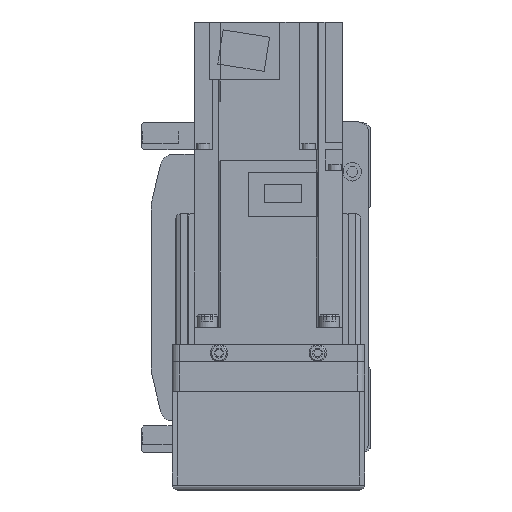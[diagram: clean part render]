
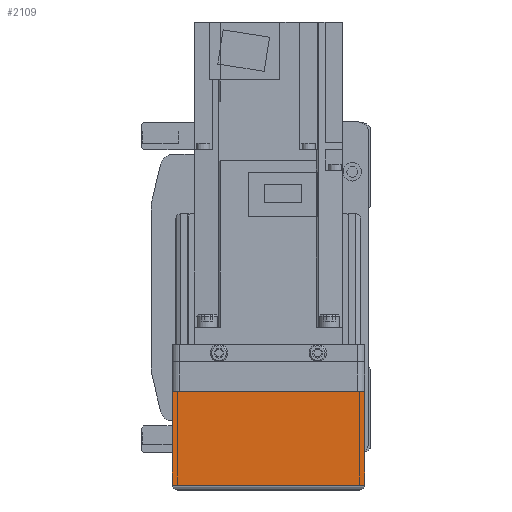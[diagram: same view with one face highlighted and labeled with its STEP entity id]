
A CAD part, left-side view. The second image highlights one B-rep face of the part: STEP entity #2109.
In plain terms, the highlighted planar face has unit normal (-1, 0, 0).
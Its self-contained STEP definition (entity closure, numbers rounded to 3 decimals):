
#2109 = ADVANCED_FACE( '', ( #4919 ), #4920, .F. );
#4919 = FACE_OUTER_BOUND( '', #8609, .T. );
#4920 = PLANE( '', #8610 );
#8609 = EDGE_LOOP( '', ( #14595, #14596, #14597, #14598 ) );
#8610 = AXIS2_PLACEMENT_3D( '', #14599, #14600, #14601 );
#14595 = ORIENTED_EDGE( '', *, *, #22684, .F. );
#14596 = ORIENTED_EDGE( '', *, *, #22685, .F. );
#14597 = ORIENTED_EDGE( '', *, *, #22686, .T. );
#14598 = ORIENTED_EDGE( '', *, *, #22687, .F. );
#14599 = CARTESIAN_POINT( '', ( -158., 36., 7. ) );
#14600 = DIRECTION( '', ( 1., 0., 0. ) );
#14601 = DIRECTION( '', ( 0., 0., -1. ) );
#22684 = EDGE_CURVE( '', #27823, #27824, #27825, .T. );
#22685 = EDGE_CURVE( '', #27826, #27823, #27827, .T. );
#22686 = EDGE_CURVE( '', #27826, #27828, #27829, .T. );
#22687 = EDGE_CURVE( '', #27824, #27828, #27830, .T. );
#27823 = VERTEX_POINT( '', #35523 );
#27824 = VERTEX_POINT( '', #35524 );
#27825 = LINE( '', #35525, #35526 );
#27826 = VERTEX_POINT( '', #35527 );
#27827 = LINE( '', #35528, #35529 );
#27828 = VERTEX_POINT( '', #35530 );
#27829 = LINE( '', #35531, #35532 );
#27830 = LINE( '', #35533, #35534 );
#35523 = CARTESIAN_POINT( '', ( -158., 39., -12.1 ) );
#35524 = CARTESIAN_POINT( '', ( -158., -39., -12.1 ) );
#35525 = CARTESIAN_POINT( '', ( -158., 50., -12.1 ) );
#35526 = VECTOR( '', #41288, 1000. );
#35527 = CARTESIAN_POINT( '', ( -158., 39., -50. ) );
#35528 = CARTESIAN_POINT( '', ( -158., 39., -50. ) );
#35529 = VECTOR( '', #41289, 1000. );
#35530 = CARTESIAN_POINT( '', ( -158., -39., -50. ) );
#35531 = CARTESIAN_POINT( '', ( -158., 40., -50. ) );
#35532 = VECTOR( '', #41290, 1000. );
#35533 = CARTESIAN_POINT( '', ( -158., -39., -12.1 ) );
#35534 = VECTOR( '', #41291, 1000. );
#41288 = DIRECTION( '', ( 0., -1., 0. ) );
#41289 = DIRECTION( '', ( 0., 0., 1. ) );
#41290 = DIRECTION( '', ( 0., -1., 0. ) );
#41291 = DIRECTION( '', ( 0., 0., -1. ) );
